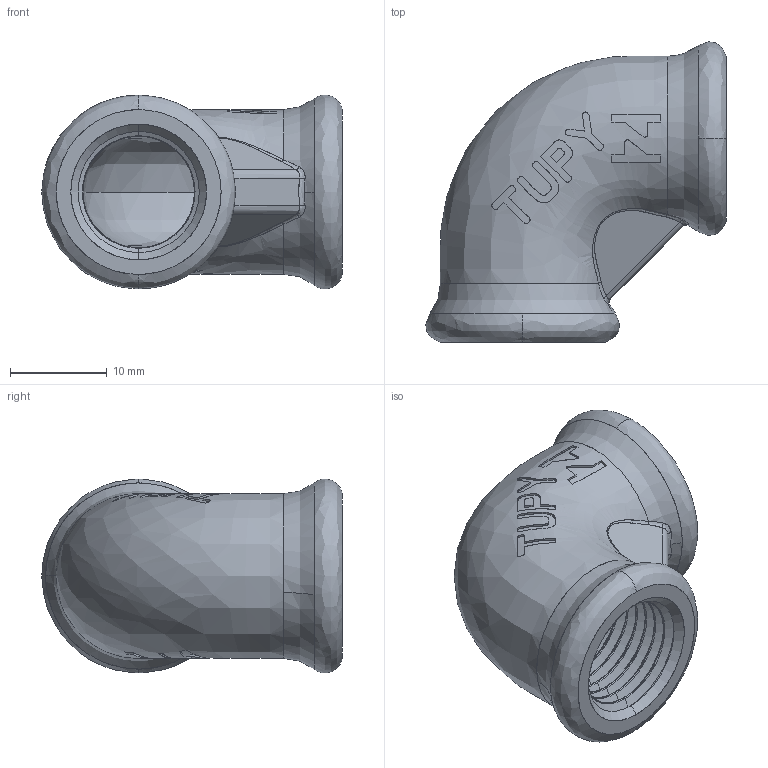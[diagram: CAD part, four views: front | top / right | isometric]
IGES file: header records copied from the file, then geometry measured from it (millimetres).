
Start section: SolidWorks IGES file using analytic representation for surfaces
Global section: file name: C:\Users\Joel Rosa\Desktop\Tubulação\12-07-OK\12-07-002.IGS; native system: SolidWorks 2011; preprocessor: SolidWorks 2011; author: Joel Rosa; date: 121204.003444; units: millimetre
Bounding box: 31 x 31 x 20 mm (x, y, z)
Surface area: 4420.8 mm2 (no closed solid volume)
Topology: 0 solids, 0 shells, 286 faces, 2680 edges, 2680 vertices
Faces by surface type: bspline 218, revolution 68
